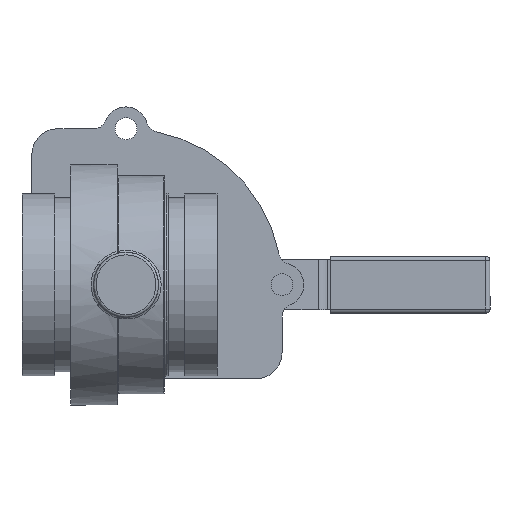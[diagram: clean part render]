
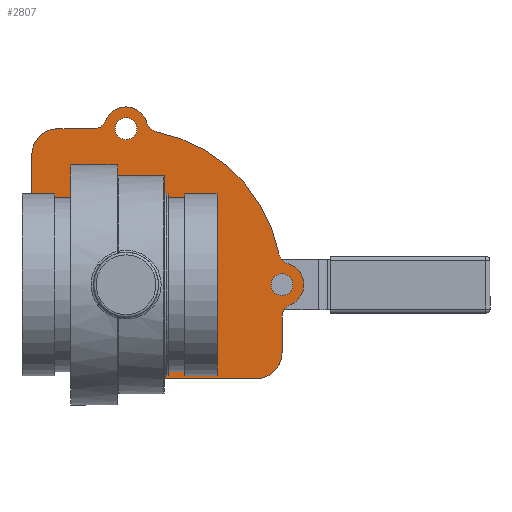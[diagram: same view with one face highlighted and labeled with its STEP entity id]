
A CAD part, front view. The second image highlights one B-rep face of the part: STEP entity #2807.
In plain terms, the highlighted planar face has unit normal (0, -1, 0).
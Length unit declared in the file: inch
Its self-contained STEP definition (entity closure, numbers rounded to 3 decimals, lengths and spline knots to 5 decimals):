
#122=FACE_BOUND('',#479,.T.);
#123=FACE_BOUND('',#480,.T.);
#124=FACE_BOUND('',#481,.T.);
#125=FACE_BOUND('',#482,.T.);
#126=FACE_BOUND('',#483,.T.);
#127=FACE_BOUND('',#484,.T.);
#128=FACE_BOUND('',#485,.T.);
#166=PLANE('',#3210);
#304=FACE_OUTER_BOUND('',#478,.T.);
#478=EDGE_LOOP('',(#2219,#2220,#2221,#2222,#2223,#2224,#2225,#2226,#2227,
#2228,#2229,#2230,#2231,#2232));
#479=EDGE_LOOP('',(#2233));
#480=EDGE_LOOP('',(#2234));
#481=EDGE_LOOP('',(#2235));
#482=EDGE_LOOP('',(#2236));
#483=EDGE_LOOP('',(#2237));
#484=EDGE_LOOP('',(#2238));
#485=EDGE_LOOP('',(#2239));
#614=LINE('',#5238,#784);
#618=LINE('',#5250,#788);
#628=LINE('',#5298,#798);
#632=LINE('',#5309,#802);
#784=VECTOR('',#3804,0.3937);
#788=VECTOR('',#3816,0.3937);
#798=VECTOR('',#3870,0.3937);
#802=VECTOR('',#3882,0.3937);
#1002=CIRCLE('',#3157,0.21);
#1004=CIRCLE('',#3160,0.19);
#1006=CIRCLE('',#3163,0.19);
#1008=CIRCLE('',#3166,0.19);
#1010=CIRCLE('',#3169,0.19);
#1012=CIRCLE('',#3172,0.21);
#1014=CIRCLE('',#3175,0.36);
#1015=CIRCLE('',#3177,1.81);
#1017=CIRCLE('',#3181,0.5);
#1019=CIRCLE('',#3185,0.25);
#1021=CIRCLE('',#3188,0.42);
#1023=CIRCLE('',#3191,0.25);
#1025=CIRCLE('',#3194,3.);
#1027=CIRCLE('',#3197,0.25);
#1029=CIRCLE('',#3200,0.42);
#1031=CIRCLE('',#3203,0.25);
#1033=CIRCLE('',#3207,0.5);
#1203=VERTEX_POINT('',#5188);
#1205=VERTEX_POINT('',#5194);
#1207=VERTEX_POINT('',#5200);
#1209=VERTEX_POINT('',#5206);
#1211=VERTEX_POINT('',#5212);
#1213=VERTEX_POINT('',#5218);
#1215=VERTEX_POINT('',#5224);
#1216=VERTEX_POINT('',#5228);
#1217=VERTEX_POINT('',#5229);
#1220=VERTEX_POINT('',#5237);
#1222=VERTEX_POINT('',#5243);
#1224=VERTEX_POINT('',#5249);
#1226=VERTEX_POINT('',#5255);
#1228=VERTEX_POINT('',#5261);
#1230=VERTEX_POINT('',#5267);
#1232=VERTEX_POINT('',#5273);
#1234=VERTEX_POINT('',#5279);
#1236=VERTEX_POINT('',#5285);
#1238=VERTEX_POINT('',#5291);
#1240=VERTEX_POINT('',#5297);
#1242=VERTEX_POINT('',#5303);
#1531=EDGE_CURVE('',#1203,#1203,#1002,.T.);
#1534=EDGE_CURVE('',#1205,#1205,#1004,.T.);
#1537=EDGE_CURVE('',#1207,#1207,#1006,.T.);
#1540=EDGE_CURVE('',#1209,#1209,#1008,.T.);
#1543=EDGE_CURVE('',#1211,#1211,#1010,.T.);
#1546=EDGE_CURVE('',#1213,#1213,#1012,.T.);
#1549=EDGE_CURVE('',#1215,#1215,#1014,.T.);
#1550=EDGE_CURVE('',#1216,#1217,#1015,.T.);
#1554=EDGE_CURVE('',#1217,#1220,#614,.T.);
#1557=EDGE_CURVE('',#1220,#1222,#1017,.T.);
#1560=EDGE_CURVE('',#1222,#1224,#618,.T.);
#1563=EDGE_CURVE('',#1224,#1226,#1019,.T.);
#1566=EDGE_CURVE('',#1226,#1228,#1021,.T.);
#1569=EDGE_CURVE('',#1228,#1230,#1023,.T.);
#1572=EDGE_CURVE('',#1230,#1232,#1025,.T.);
#1575=EDGE_CURVE('',#1232,#1234,#1027,.T.);
#1578=EDGE_CURVE('',#1234,#1236,#1029,.T.);
#1581=EDGE_CURVE('',#1236,#1238,#1031,.T.);
#1584=EDGE_CURVE('',#1238,#1240,#628,.T.);
#1587=EDGE_CURVE('',#1240,#1242,#1033,.T.);
#1590=EDGE_CURVE('',#1242,#1216,#632,.T.);
#2219=ORIENTED_EDGE('',*,*,#1590,.T.);
#2220=ORIENTED_EDGE('',*,*,#1550,.T.);
#2221=ORIENTED_EDGE('',*,*,#1554,.T.);
#2222=ORIENTED_EDGE('',*,*,#1557,.T.);
#2223=ORIENTED_EDGE('',*,*,#1560,.T.);
#2224=ORIENTED_EDGE('',*,*,#1563,.T.);
#2225=ORIENTED_EDGE('',*,*,#1566,.T.);
#2226=ORIENTED_EDGE('',*,*,#1569,.T.);
#2227=ORIENTED_EDGE('',*,*,#1572,.T.);
#2228=ORIENTED_EDGE('',*,*,#1575,.T.);
#2229=ORIENTED_EDGE('',*,*,#1578,.T.);
#2230=ORIENTED_EDGE('',*,*,#1581,.T.);
#2231=ORIENTED_EDGE('',*,*,#1584,.T.);
#2232=ORIENTED_EDGE('',*,*,#1587,.T.);
#2233=ORIENTED_EDGE('',*,*,#1531,.T.);
#2234=ORIENTED_EDGE('',*,*,#1534,.T.);
#2235=ORIENTED_EDGE('',*,*,#1537,.T.);
#2236=ORIENTED_EDGE('',*,*,#1540,.T.);
#2237=ORIENTED_EDGE('',*,*,#1543,.T.);
#2238=ORIENTED_EDGE('',*,*,#1546,.T.);
#2239=ORIENTED_EDGE('',*,*,#1549,.T.);
#2807=ADVANCED_FACE('',(#304,#122,#123,#124,#125,#126,#127,#128),#166,.F.);
#3157=AXIS2_PLACEMENT_3D('',#5190,#3750,#3751);
#3160=AXIS2_PLACEMENT_3D('',#5196,#3757,#3758);
#3163=AXIS2_PLACEMENT_3D('',#5202,#3764,#3765);
#3166=AXIS2_PLACEMENT_3D('',#5208,#3771,#3772);
#3169=AXIS2_PLACEMENT_3D('',#5214,#3778,#3779);
#3172=AXIS2_PLACEMENT_3D('',#5220,#3785,#3786);
#3175=AXIS2_PLACEMENT_3D('',#5226,#3792,#3793);
#3177=AXIS2_PLACEMENT_3D('',#5230,#3796,#3797);
#3181=AXIS2_PLACEMENT_3D('',#5244,#3809,#3810);
#3185=AXIS2_PLACEMENT_3D('',#5256,#3821,#3822);
#3188=AXIS2_PLACEMENT_3D('',#5262,#3828,#3829);
#3191=AXIS2_PLACEMENT_3D('',#5268,#3835,#3836);
#3194=AXIS2_PLACEMENT_3D('',#5274,#3842,#3843);
#3197=AXIS2_PLACEMENT_3D('',#5280,#3849,#3850);
#3200=AXIS2_PLACEMENT_3D('',#5286,#3856,#3857);
#3203=AXIS2_PLACEMENT_3D('',#5292,#3863,#3864);
#3207=AXIS2_PLACEMENT_3D('',#5304,#3875,#3876);
#3210=AXIS2_PLACEMENT_3D('',#5311,#3884,#3885);
#3750=DIRECTION('center_axis',(0.,1.,0.));
#3751=DIRECTION('ref_axis',(-1.,0.,0.));
#3757=DIRECTION('center_axis',(0.,1.,0.));
#3758=DIRECTION('ref_axis',(-1.,0.,0.));
#3764=DIRECTION('center_axis',(0.,1.,0.));
#3765=DIRECTION('ref_axis',(-1.,0.,0.));
#3771=DIRECTION('center_axis',(0.,1.,0.));
#3772=DIRECTION('ref_axis',(-1.,0.,0.));
#3778=DIRECTION('center_axis',(0.,1.,0.));
#3779=DIRECTION('ref_axis',(-1.,0.,0.));
#3785=DIRECTION('center_axis',(0.,1.,0.));
#3786=DIRECTION('ref_axis',(-1.,0.,0.));
#3792=DIRECTION('center_axis',(0.,1.,0.));
#3793=DIRECTION('ref_axis',(-1.,0.,0.));
#3796=DIRECTION('center_axis',(0.,-1.,0.));
#3797=DIRECTION('ref_axis',(0.,0.,1.));
#3804=DIRECTION('',(1.,0.,0.));
#3809=DIRECTION('center_axis',(0.,-1.,0.));
#3810=DIRECTION('ref_axis',(-1.,0.,0.));
#3816=DIRECTION('',(0.,0.,1.));
#3821=DIRECTION('center_axis',(0.,1.,0.));
#3822=DIRECTION('ref_axis',(-1.,0.,0.));
#3828=DIRECTION('center_axis',(0.,-1.,0.));
#3829=DIRECTION('ref_axis',(-0.277,0.,-0.961));
#3835=DIRECTION('center_axis',(0.,1.,0.));
#3836=DIRECTION('ref_axis',(-0.277,0.,-0.961));
#3842=DIRECTION('center_axis',(0.,-1.,0.));
#3843=DIRECTION('ref_axis',(-0.198,0.,-0.98));
#3849=DIRECTION('center_axis',(0.,1.,0.));
#3850=DIRECTION('ref_axis',(-0.198,0.,-0.98));
#3856=DIRECTION('center_axis',(0.,-1.,0.));
#3857=DIRECTION('ref_axis',(0.928,0.,-0.373));
#3863=DIRECTION('center_axis',(0.,1.,0.));
#3864=DIRECTION('ref_axis',(0.928,0.,-0.373));
#3870=DIRECTION('',(-1.,0.,0.));
#3875=DIRECTION('center_axis',(0.,-1.,0.));
#3876=DIRECTION('ref_axis',(1.,0.,0.));
#3882=DIRECTION('',(0.,0.,-1.));
#3884=DIRECTION('center_axis',(0.,1.,0.));
#3885=DIRECTION('ref_axis',(0.,0.,1.));
#5188=CARTESIAN_POINT('',(3.21,0.,0.));
#5190=CARTESIAN_POINT('Origin',(3.,0.,0.));
#5194=CARTESIAN_POINT('',(-0.78227,0.,-0.97227));
#5196=CARTESIAN_POINT('Origin',(-0.97227,0.,-0.97227));
#5200=CARTESIAN_POINT('',(1.16227,0.,0.97227));
#5202=CARTESIAN_POINT('Origin',(0.97227,0.,0.97227));
#5206=CARTESIAN_POINT('',(1.16227,0.,-0.97227));
#5208=CARTESIAN_POINT('Origin',(0.97227,0.,-0.97227));
#5212=CARTESIAN_POINT('',(-0.78227,0.,0.97227));
#5214=CARTESIAN_POINT('Origin',(-0.97227,0.,0.97227));
#5218=CARTESIAN_POINT('',(0.21,0.,3.));
#5220=CARTESIAN_POINT('Origin',(0.,0.,3.));
#5224=CARTESIAN_POINT('',(0.36,0.,0.));
#5226=CARTESIAN_POINT('Origin',(0.,0.,0.));
#5228=CARTESIAN_POINT('',(-1.81,0.,0.));
#5229=CARTESIAN_POINT('',(0.,0.,-1.81));
#5230=CARTESIAN_POINT('Origin',(0.,0.,0.));
#5237=CARTESIAN_POINT('',(2.5,0.,-1.81));
#5238=CARTESIAN_POINT('',(0.,0.,-1.81));
#5243=CARTESIAN_POINT('',(3.,0.,-1.31));
#5244=CARTESIAN_POINT('Origin',(2.5,0.,-1.31));
#5249=CARTESIAN_POINT('',(3.,0.,-0.62161));
#5250=CARTESIAN_POINT('',(3.,0.,-1.31));
#5255=CARTESIAN_POINT('',(3.15672,0.,-0.38967));
#5256=CARTESIAN_POINT('Origin',(3.25,0.,-0.62161));
#5261=CARTESIAN_POINT('',(3.11635,0.,0.40356));
#5262=CARTESIAN_POINT('Origin',(3.,0.,0.));
#5267=CARTESIAN_POINT('',(2.94055,0.,0.59426));
#5268=CARTESIAN_POINT('Origin',(3.1856,0.,0.64378));
#5273=CARTESIAN_POINT('',(0.59426,0.,2.94055));
#5274=CARTESIAN_POINT('Origin',(0.,0.,0.));
#5279=CARTESIAN_POINT('',(0.40356,0.,3.11635));
#5280=CARTESIAN_POINT('Origin',(0.64378,0.,3.1856));
#5285=CARTESIAN_POINT('',(-0.38967,0.,3.15672));
#5286=CARTESIAN_POINT('Origin',(0.,0.,3.));
#5291=CARTESIAN_POINT('',(-0.62161,0.,3.));
#5292=CARTESIAN_POINT('Origin',(-0.62161,0.,3.25));
#5297=CARTESIAN_POINT('',(-1.31,0.,3.));
#5298=CARTESIAN_POINT('',(-0.62161,0.,3.));
#5303=CARTESIAN_POINT('',(-1.81,0.,2.5));
#5304=CARTESIAN_POINT('Origin',(-1.31,0.,2.5));
#5309=CARTESIAN_POINT('',(-1.81,0.,2.5));
#5311=CARTESIAN_POINT('Origin',(0.50298,0.,0.50298));
